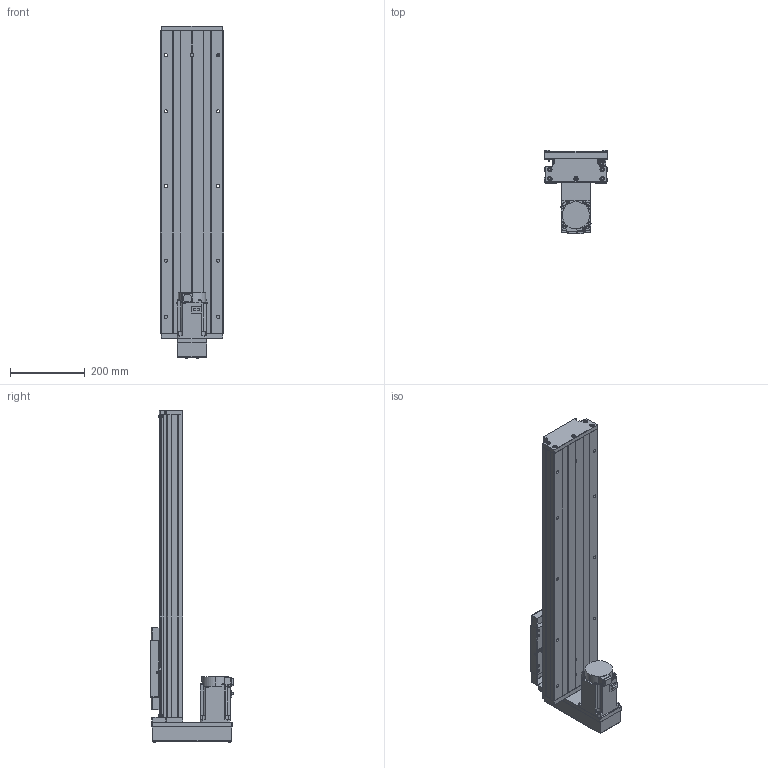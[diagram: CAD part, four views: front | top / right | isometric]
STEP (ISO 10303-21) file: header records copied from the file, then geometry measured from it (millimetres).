
FILE_DESCRIPTION (( 'STEP AP203' ), '1' );
FILE_NAME ('GTH17-550-BM-M75-C4.step', '2023-06-30T12:40:11', ( '微软用户' ), ( '微软中国' ), 'SwSTEP 2.0', 'SolidWorks 2020', '' );
FILE_SCHEMA (( 'CONFIG_CONTROL_DESIGN' ));
Length unit declared in the file: millimetre
Products named in the file (19): CTHA60-017; GBT 70.2-M3¡Á5_M3¡Á6; EE_SX911P_R; す晦芛蹟隊 M3℅5; GTH17-001_550; CTHA60-016; HG-KN73J-S100; GTH17-002_GTH17-002; GBT 70.1-M3℅5; GBT 70.2-M4¡Á45_M4¡Á35; GTH17-004; GBT77-2000 M3×3; GTH17-015-2_CTHA86-015-2; GTH17-005; GBT 70.1-M6¡Á20_M6¡Á20; GTH17-033; GB1155-6X6; GTH17-031; GTH17-550-BM-M75-C4
Assembly tree (58 placements, depth 2):
  GTH17-550-BM-M75-C4
    GTH17-001_550
    GTH17-002_GTH17-002
    GTH17-004
    GTH17-005
    GB1155-6X6  x2
    CTHA60-017  x3
    EE_SX911P_R  x3
    CTHA60-016  x2
    GBT 70.1-M3℅5  x6
    GBT77-2000 M3×3  x6
    GBT 70.1-M6¡Á20_M6¡Á20  x10
    GTH17-031
    GBT 70.2-M3¡Á5_M3¡Á6  x8
    す晦芛蹟隊 M3℅5  x6
    HG-KN73J-S100
    GBT 70.2-M4¡Á45_M4¡Á35  x4
    GTH17-015-2_CTHA86-015-2
    GTH17-033
Bounding box: 171 x 222.3 x 888.2 mm (x, y, z)
Volume: 7599097.1 mm3; surface area: 1096710.6 mm2
Topology: 61 solids, 61 shells, 2439 faces, 5821 edges, 3603 vertices
Faces by surface type: plane 1308, cylinder 658, cone 297, torus 124, sphere 32, bspline 20
Entity records: 44430 total; most frequent: CARTESIAN_POINT 10316, DIRECTION 6421, ORIENTED_EDGE 6354, EDGE_CURVE 3177, AXIS2_PLACEMENT_3D 2186, LINE 2049, VECTOR 2049, VERTEX_POINT 2015
